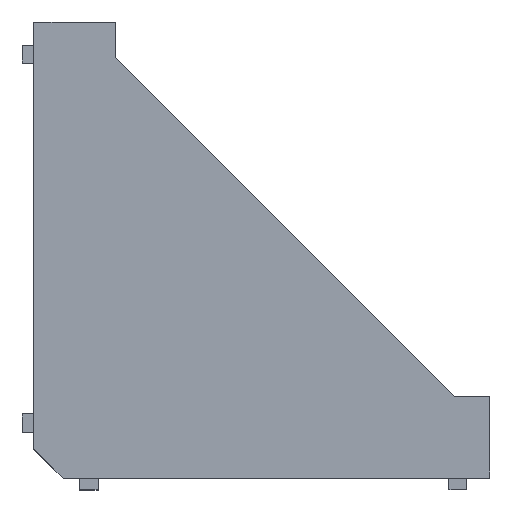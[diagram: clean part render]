
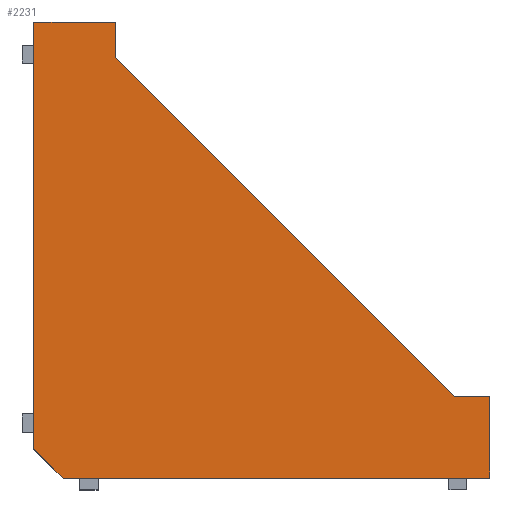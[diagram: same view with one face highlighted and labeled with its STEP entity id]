
A CAD part, top view. The second image highlights one B-rep face of the part: STEP entity #2231.
In plain terms, the highlighted planar face has unit normal (0, 0, 1).
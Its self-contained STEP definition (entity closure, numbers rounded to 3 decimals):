
#41 = DIRECTION ( 'NONE',  ( 0., 1., 0. ) ) ;
#121 = EDGE_CURVE ( 'NONE', #673, #1340, #1032, .T. ) ;
#141 = DIRECTION ( 'NONE',  ( 0., 1., 0. ) ) ;
#199 = ORIENTED_EDGE ( 'NONE', *, *, #1322, .T. ) ;
#202 = LINE ( 'NONE', #2305, #1732 ) ;
#208 = EDGE_CURVE ( 'NONE', #345, #425, #1301, .T. ) ;
#224 = CARTESIAN_POINT ( 'NONE',  ( 31.494, -26.761, 38.5 ) ) ;
#230 = CARTESIAN_POINT ( 'NONE',  ( -35.506, -40.761, 38.5 ) ) ;
#233 = AXIS2_PLACEMENT_3D ( 'NONE', #1762, #1516, #1265 ) ;
#258 = DIRECTION ( 'NONE',  ( -1., 0., 0. ) ) ;
#267 = CARTESIAN_POINT ( 'NONE',  ( -40.506, -35.761, 38.5 ) ) ;
#291 = CARTESIAN_POINT ( 'NONE',  ( 37.494, -32.761, 38.5 ) ) ;
#298 = DIRECTION ( 'NONE',  ( 0.707, -0.707, 0. ) ) ;
#320 = CARTESIAN_POINT ( 'NONE',  ( 37.494, -40.761, 38.5 ) ) ;
#345 = VERTEX_POINT ( 'NONE', #1694 ) ;
#360 = DIRECTION ( 'NONE',  ( -0.707, 0.707, 0. ) ) ;
#381 = CARTESIAN_POINT ( 'NONE',  ( -26.506, 37.239, 38.5 ) ) ;
#383 = ORIENTED_EDGE ( 'NONE', *, *, #1521, .T. ) ;
#425 = VERTEX_POINT ( 'NONE', #224 ) ;
#432 = VERTEX_POINT ( 'NONE', #2322 ) ;
#440 = VERTEX_POINT ( 'NONE', #1405 ) ;
#501 = CARTESIAN_POINT ( 'NONE',  ( -40.506, 37.239, 38.5 ) ) ;
#528 = LINE ( 'NONE', #291, #1313 ) ;
#537 = CARTESIAN_POINT ( 'NONE',  ( -35.506, -40.761, 38.5 ) ) ;
#607 = CARTESIAN_POINT ( 'NONE',  ( -26.506, 31.239, 38.5 ) ) ;
#627 = LINE ( 'NONE', #381, #988 ) ;
#673 = VERTEX_POINT ( 'NONE', #267 ) ;
#743 = LINE ( 'NONE', #501, #1701 ) ;
#798 = DIRECTION ( 'NONE',  ( -1., 0., 0. ) ) ;
#842 = ORIENTED_EDGE ( 'NONE', *, *, #1176, .T. ) ;
#849 = LINE ( 'NONE', #607, #1233 ) ;
#913 = ORIENTED_EDGE ( 'NONE', *, *, #982, .T. ) ;
#982 = EDGE_CURVE ( 'NONE', #425, #440, #849, .T. ) ;
#988 = VECTOR ( 'NONE', #141, 1000. ) ;
#1032 = LINE ( 'NONE', #537, #1616 ) ;
#1046 = CARTESIAN_POINT ( 'NONE',  ( 31.494, -26.761, 38.5 ) ) ;
#1115 = VECTOR ( 'NONE', #2040, 1000. ) ;
#1120 = VERTEX_POINT ( 'NONE', #320 ) ;
#1176 = EDGE_CURVE ( 'NONE', #1856, #673, #202, .T. ) ;
#1233 = VECTOR ( 'NONE', #360, 1000. ) ;
#1265 = DIRECTION ( 'NONE',  ( -1., 0., 0. ) ) ;
#1301 = LINE ( 'NONE', #1046, #1968 ) ;
#1313 = VECTOR ( 'NONE', #41, 1000. ) ;
#1322 = EDGE_CURVE ( 'NONE', #1120, #345, #528, .T. ) ;
#1340 = VERTEX_POINT ( 'NONE', #230 ) ;
#1405 = CARTESIAN_POINT ( 'NONE',  ( -26.506, 31.239, 38.5 ) ) ;
#1422 = ORIENTED_EDGE ( 'NONE', *, *, #208, .T. ) ;
#1516 = DIRECTION ( 'NONE',  ( 0., 0., -1. ) ) ;
#1521 = EDGE_CURVE ( 'NONE', #432, #1856, #743, .T. ) ;
#1616 = VECTOR ( 'NONE', #298, 1000. ) ;
#1694 = CARTESIAN_POINT ( 'NONE',  ( 37.494, -26.761, 38.5 ) ) ;
#1701 = VECTOR ( 'NONE', #258, 1000. ) ;
#1725 = CARTESIAN_POINT ( 'NONE',  ( -40.506, 37.239, 38.5 ) ) ;
#1732 = VECTOR ( 'NONE', #2095, 1000. ) ;
#1761 = EDGE_LOOP ( 'NONE', ( #842, #2316, #1817, #199, #1422, #913, #1872, #383 ) ) ;
#1762 = CARTESIAN_POINT ( 'NONE',  ( -40.506, 37.239, 38.5 ) ) ;
#1817 = ORIENTED_EDGE ( 'NONE', *, *, #2014, .T. ) ;
#1856 = VERTEX_POINT ( 'NONE', #1725 ) ;
#1872 = ORIENTED_EDGE ( 'NONE', *, *, #2005, .T. ) ;
#1968 = VECTOR ( 'NONE', #798, 1000. ) ;
#1994 = PLANE ( 'NONE',  #233 ) ;
#2005 = EDGE_CURVE ( 'NONE', #440, #432, #627, .T. ) ;
#2014 = EDGE_CURVE ( 'NONE', #1340, #1120, #2299, .T. ) ;
#2040 = DIRECTION ( 'NONE',  ( 1., 0., 0. ) ) ;
#2095 = DIRECTION ( 'NONE',  ( 0., -1., 0. ) ) ;
#2231 = ADVANCED_FACE ( 'NONE', ( #2328 ), #1994, .F. ) ;
#2253 = CARTESIAN_POINT ( 'NONE',  ( 37.494, -40.761, 38.5 ) ) ;
#2299 = LINE ( 'NONE', #2253, #1115 ) ;
#2305 = CARTESIAN_POINT ( 'NONE',  ( -40.506, -40.761, 38.5 ) ) ;
#2316 = ORIENTED_EDGE ( 'NONE', *, *, #121, .T. ) ;
#2322 = CARTESIAN_POINT ( 'NONE',  ( -26.506, 37.239, 38.5 ) ) ;
#2328 = FACE_OUTER_BOUND ( 'NONE', #1761, .T. ) ;
